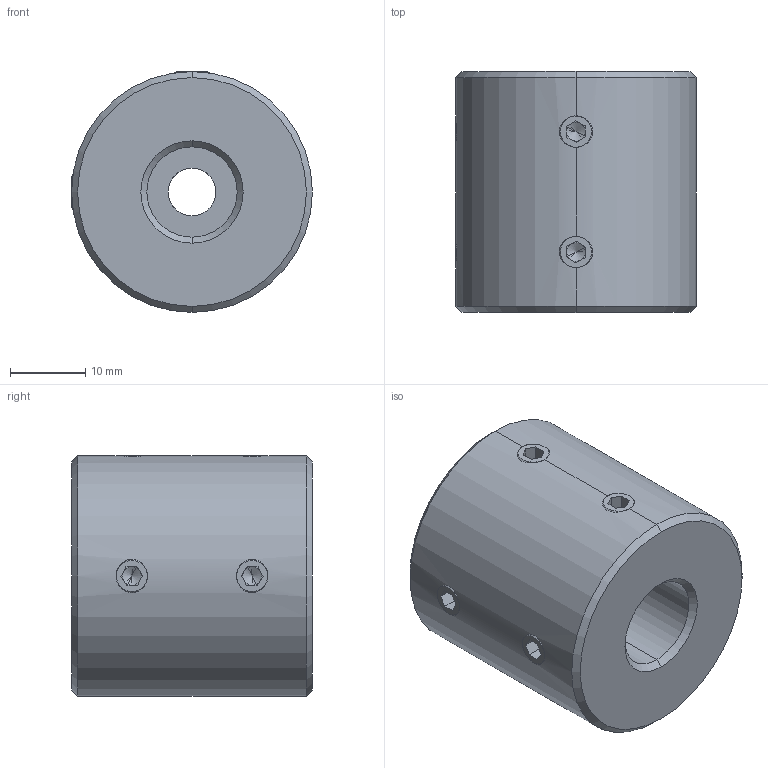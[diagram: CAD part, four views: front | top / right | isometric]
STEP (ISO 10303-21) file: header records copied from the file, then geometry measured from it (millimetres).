
FILE_DESCRIPTION (( 'STEP AP214' ), '1' );
FILE_NAME ('LL-D-D32L32-6.35-12½¨Ä£.STEP', '2022-07-22T11:22:34', ( '' ), ( '' ), 'SwSTEP 2.0', 'SolidWorks 2022', '' );
FILE_SCHEMA (( 'AUTOMOTIVE_DESIGN' ));
Length unit declared in the file: millimetre
Products named in the file (1): LL-D-D32L32-6.35-12膘耀
Bounding box: 32 x 32 x 32 mm (x, y, z)
Volume: 23091 mm3; surface area: 5856 mm2
Topology: 1 solids, 1 shells, 113 faces, 286 edges, 176 vertices
Faces by surface type: plane 59, cone 32, cylinder 22
Entity records: 3754 total; most frequent: CARTESIAN_POINT 1044, DIRECTION 558, ORIENTED_EDGE 556, EDGE_CURVE 278, AXIS2_PLACEMENT_3D 206, VERTEX_POINT 176, VECTOR 146, LINE 146
